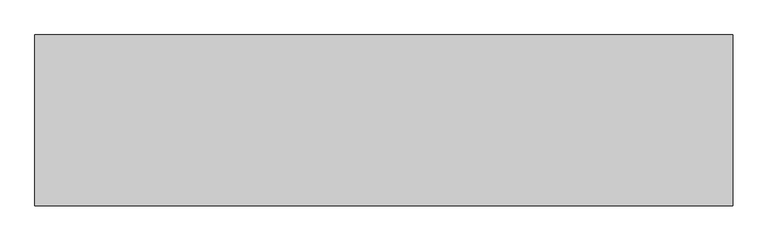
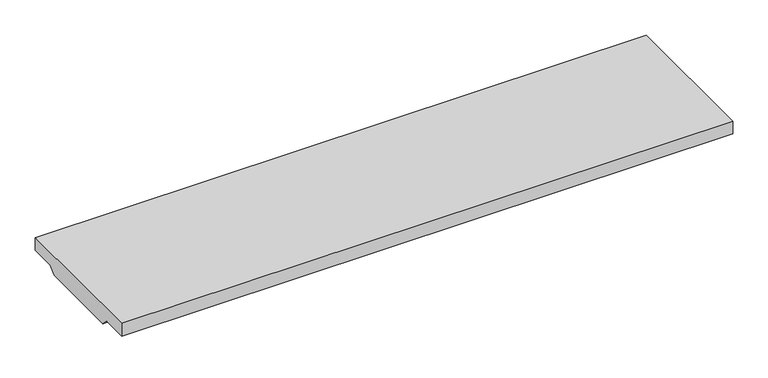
"""IFC4 building model written with IfcOpenShell, lengths in millimetres: proxy geometry, Muestra 1.00ML_245 V2 Ac-Pl-Ca-Sa : Muestra 1.00ML_245 V2 Ac-Pl-Ca-Sa."""

from ifc_helpers import new_model, si_unit, frame, origin, place, context, project, spatial, polyline, outline, extrude, source, transform, mapped, element, save


def generic_models_f22ee03e(model_context):
    return source(origin(), model_context, "Body", "SweptSolid", [
        extrude(outline(polyline([(23062.6044759, 228.3460936), (23307.6044759, 228.3460936), (23307.6044759, 206.3460936), (23265.3278081, 206.3460936), (23254.3278081, 195.3460936), (23115.8811437, 195.3460936), (23104.8811437, 206.3460936), (23062.6044759, 206.3460936), (23062.6044759, 228.3460936)])), frame((49256.4768924, 0.0, 0.0), z_axis=(1.0, 0.0, 0.0), x_axis=(0.0, 1.0, 0.0)), (0.0, 0.0, 1.0), 1000.0),
    ])


if __name__ == "__main__":
    model = new_model("IFC4")
    model_context = context("Model", 3, world=origin())
    ifc_project = project(units=[si_unit("LENGTHUNIT", "METRE", prefix="MILLI")], contexts=[model_context])
    site = spatial("IfcSite", under=ifc_project)
    building = spatial("IfcBuilding", under=site)
    placement = place(None, origin())
    generic_models_shape = generic_models_f22ee03e(model_context)
    element("IfcBuildingElementProxy", 1, Name="Muestra 1.00ML_245 V2 Ac-Pl-Ca-Sa : Muestra 1.00ML_245 V2 Ac-Pl-Ca-Sa", ObjectType="Muestra 1.00ML_245 V2 Ac-Pl-Ca-Sa : Muestra 1.00ML_245 V2 Ac-Pl-Ca-Sa", at=placement, inside=building, context=model_context, shape_type="MappedRepresentation", body=[
        mapped(generic_models_shape, transform((0.0, 0.0, 0.0), x_axis=(1.0, 0.0, 0.0), y_axis=(0.0, 1.0, 0.0), z_axis=(0.0, 0.0, 1.0))),
    ])
    save(model, "model.ifc")
